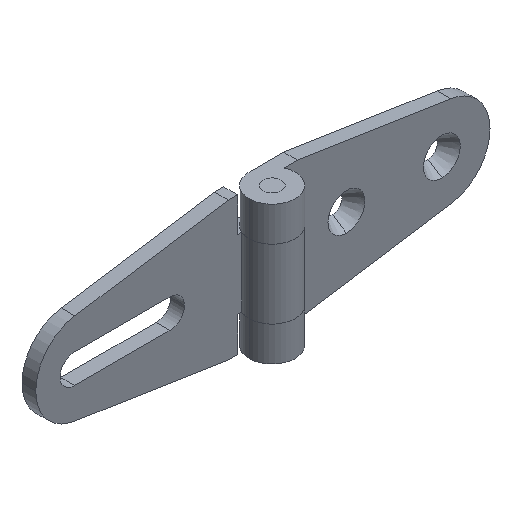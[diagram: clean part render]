
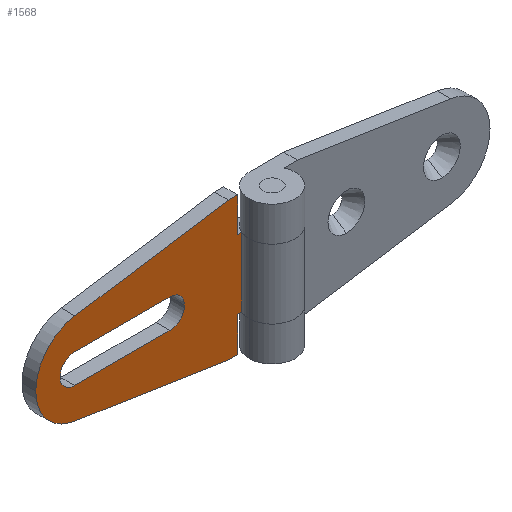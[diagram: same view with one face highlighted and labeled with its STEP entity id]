
A CAD part, isometric view. The second image highlights one B-rep face of the part: STEP entity #1568.
In plain terms, the highlighted planar face has unit normal (0, -1, 0).
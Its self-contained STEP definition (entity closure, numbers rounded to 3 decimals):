
#955=CARTESIAN_POINT('',(-98.5,0.,0.));
#956=VERTEX_POINT('',#955);
#965=CARTESIAN_POINT('',(-90.02,0.0,9.884));
#966=VERTEX_POINT('',#965);
#967=CARTESIAN_POINT('',(-88.5,0.0,0.));
#968=DIRECTION('',(0.0,-1.0,0.0));
#969=DIRECTION('',(-1.0,0.0,0.0));
#970=AXIS2_PLACEMENT_3D('',#967,#968,#969);
#971=CIRCLE('',#970,10.0);
#972=EDGE_CURVE('',#966,#956,#971,.T.);
#1049=CARTESIAN_POINT('',(-53.833,0.0,7.5));
#1050=VERTEX_POINT('',#1049);
#1058=CARTESIAN_POINT('',(-53.833,0.0,-7.5));
#1059=VERTEX_POINT('',#1058);
#1060=CARTESIAN_POINT('',(-53.833,0.0,-7.5));
#1061=DIRECTION('',(0.0,0.0,1.0));
#1062=VECTOR('',#1061,15.);
#1063=LINE('',#1060,#1062);
#1064=EDGE_CURVE('',#1059,#1050,#1063,.T.);
#1083=CARTESIAN_POINT('',(-66.25,0.,0.));
#1084=VERTEX_POINT('',#1083);
#1100=CARTESIAN_POINT('',(-69.4,0.0,-3.15));
#1101=VERTEX_POINT('',#1100);
#1108=CARTESIAN_POINT('',(-69.4,0.0,0.));
#1109=DIRECTION('',(0.0,1.0,0.0));
#1110=DIRECTION('',(-1.0,0.0,0.0));
#1111=AXIS2_PLACEMENT_3D('',#1108,#1109,#1110);
#1112=CIRCLE('',#1111,3.15);
#1113=EDGE_CURVE('',#1084,#1101,#1112,.T.);
#1123=CARTESIAN_POINT('',(-93.25,0.,0.));
#1124=VERTEX_POINT('',#1123);
#1133=CARTESIAN_POINT('',(-90.1,0.0,-3.15));
#1134=VERTEX_POINT('',#1133);
#1135=CARTESIAN_POINT('',(-90.1,0.0,0.));
#1136=DIRECTION('',(0.0,1.0,0.0));
#1137=DIRECTION('',(-1.0,0.0,0.0));
#1138=AXIS2_PLACEMENT_3D('',#1135,#1136,#1137);
#1139=CIRCLE('',#1138,3.15);
#1140=EDGE_CURVE('',#1134,#1124,#1139,.T.);
#1327=CARTESIAN_POINT('',(-90.1,0.0,3.15));
#1328=VERTEX_POINT('',#1327);
#1335=CARTESIAN_POINT('',(-90.1,0.0,0.));
#1336=DIRECTION('',(0.0,1.0,0.0));
#1337=DIRECTION('',(-1.0,0.0,0.0));
#1338=AXIS2_PLACEMENT_3D('',#1335,#1336,#1337);
#1339=CIRCLE('',#1338,3.15);
#1340=EDGE_CURVE('',#1124,#1328,#1339,.T.);
#1351=CARTESIAN_POINT('',(-69.4,0.0,3.15));
#1352=VERTEX_POINT('',#1351);
#1353=CARTESIAN_POINT('',(-69.4,0.0,0.));
#1354=DIRECTION('',(0.0,1.0,0.0));
#1355=DIRECTION('',(-1.0,0.0,0.0));
#1356=AXIS2_PLACEMENT_3D('',#1353,#1354,#1355);
#1357=CIRCLE('',#1356,3.15);
#1358=EDGE_CURVE('',#1352,#1084,#1357,.T.);
#1384=CARTESIAN_POINT('',(-90.1,0.0,3.15));
#1385=DIRECTION('',(1.0,0.0,0.0));
#1386=VECTOR('',#1385,20.7);
#1387=LINE('',#1384,#1386);
#1388=EDGE_CURVE('',#1328,#1352,#1387,.T.);
#1406=CARTESIAN_POINT('',(-69.4,0.0,-3.15));
#1407=DIRECTION('',(-1.0,0.0,0.0));
#1408=VECTOR('',#1407,20.7);
#1409=LINE('',#1406,#1408);
#1410=EDGE_CURVE('',#1101,#1134,#1409,.T.);
#1427=CARTESIAN_POINT('',(-54.75,0.0,7.5));
#1428=VERTEX_POINT('',#1427);
#1429=CARTESIAN_POINT('',(-54.75,0.0,15.));
#1430=VERTEX_POINT('',#1429);
#1431=CARTESIAN_POINT('',(-54.75,0.0,7.5));
#1432=DIRECTION('',(0.0,0.0,1.0));
#1433=VECTOR('',#1432,7.5);
#1434=LINE('',#1431,#1433);
#1435=EDGE_CURVE('',#1428,#1430,#1434,.T.);
#1467=CARTESIAN_POINT('',(-53.833,0.0,7.5));
#1468=DIRECTION('',(-1.0,0.0,0.0));
#1469=VECTOR('',#1468,0.917);
#1470=LINE('',#1467,#1469);
#1471=EDGE_CURVE('',#1050,#1428,#1470,.T.);
#1496=CARTESIAN_POINT('',(-73.875,0.0,0.));
#1497=DIRECTION('',(0.0,-1.0,0.0));
#1498=DIRECTION('',(-1.0,0.0,0.0));
#1499=AXIS2_PLACEMENT_3D('',#1496,#1497,#1498);
#1500=PLANE('',#1499);
#1501=ORIENTED_EDGE('',*,*,#1471,.T.);
#1502=ORIENTED_EDGE('',*,*,#1435,.T.);
#1503=CARTESIAN_POINT('',(-56.75,0.0,15.));
#1504=VERTEX_POINT('',#1503);
#1505=CARTESIAN_POINT('',(-54.75,0.0,15.));
#1506=DIRECTION('',(-1.0,0.0,0.0));
#1507=VECTOR('',#1506,2.0);
#1508=LINE('',#1505,#1507);
#1509=EDGE_CURVE('',#1430,#1504,#1508,.T.);
#1510=ORIENTED_EDGE('',*,*,#1509,.T.);
#1511=CARTESIAN_POINT('',(-56.75,0.0,15.));
#1512=DIRECTION('',(-0.988,0.0,-0.152));
#1513=VECTOR('',#1512,33.661);
#1514=LINE('',#1511,#1513);
#1515=EDGE_CURVE('',#1504,#966,#1514,.T.);
#1516=ORIENTED_EDGE('',*,*,#1515,.T.);
#1517=ORIENTED_EDGE('',*,*,#972,.T.);
#1518=CARTESIAN_POINT('',(-90.02,0.0,-9.884));
#1519=VERTEX_POINT('',#1518);
#1520=CARTESIAN_POINT('',(-88.5,0.0,0.));
#1521=DIRECTION('',(0.0,-1.0,0.0));
#1522=DIRECTION('',(-1.0,0.0,0.0));
#1523=AXIS2_PLACEMENT_3D('',#1520,#1521,#1522);
#1524=CIRCLE('',#1523,10.0);
#1525=EDGE_CURVE('',#956,#1519,#1524,.T.);
#1526=ORIENTED_EDGE('',*,*,#1525,.T.);
#1527=CARTESIAN_POINT('',(-56.75,0.0,-15.));
#1528=VERTEX_POINT('',#1527);
#1529=CARTESIAN_POINT('',(-90.02,0.0,-9.884));
#1530=DIRECTION('',(0.988,0.0,-0.152));
#1531=VECTOR('',#1530,33.661);
#1532=LINE('',#1529,#1531);
#1533=EDGE_CURVE('',#1519,#1528,#1532,.T.);
#1534=ORIENTED_EDGE('',*,*,#1533,.T.);
#1535=CARTESIAN_POINT('',(-54.75,0.0,-15.));
#1536=VERTEX_POINT('',#1535);
#1537=CARTESIAN_POINT('',(-56.75,0.0,-15.));
#1538=DIRECTION('',(1.0,0.0,0.0));
#1539=VECTOR('',#1538,2.0);
#1540=LINE('',#1537,#1539);
#1541=EDGE_CURVE('',#1528,#1536,#1540,.T.);
#1542=ORIENTED_EDGE('',*,*,#1541,.T.);
#1543=CARTESIAN_POINT('',(-54.75,0.0,-7.5));
#1544=VERTEX_POINT('',#1543);
#1545=CARTESIAN_POINT('',(-54.75,0.0,-15.));
#1546=DIRECTION('',(0.0,0.0,1.0));
#1547=VECTOR('',#1546,7.5);
#1548=LINE('',#1545,#1547);
#1549=EDGE_CURVE('',#1536,#1544,#1548,.T.);
#1550=ORIENTED_EDGE('',*,*,#1549,.T.);
#1551=CARTESIAN_POINT('',(-54.75,0.0,-7.5));
#1552=DIRECTION('',(1.0,0.0,0.0));
#1553=VECTOR('',#1552,0.917);
#1554=LINE('',#1551,#1553);
#1555=EDGE_CURVE('',#1544,#1059,#1554,.T.);
#1556=ORIENTED_EDGE('',*,*,#1555,.T.);
#1557=ORIENTED_EDGE('',*,*,#1064,.T.);
#1558=EDGE_LOOP('',(#1501,#1502,#1510,#1516,#1517,#1526,#1534,#1542,#1550,#1556,#1557));
#1559=FACE_OUTER_BOUND('',#1558,.T.);
#1560=ORIENTED_EDGE('',*,*,#1358,.T.);
#1561=ORIENTED_EDGE('',*,*,#1113,.T.);
#1562=ORIENTED_EDGE('',*,*,#1410,.T.);
#1563=ORIENTED_EDGE('',*,*,#1140,.T.);
#1564=ORIENTED_EDGE('',*,*,#1340,.T.);
#1565=ORIENTED_EDGE('',*,*,#1388,.T.);
#1566=EDGE_LOOP('',(#1560,#1561,#1562,#1563,#1564,#1565));
#1567=FACE_BOUND('',#1566,.T.);
#1568=ADVANCED_FACE('',(#1559,#1567),#1500,.T.);
